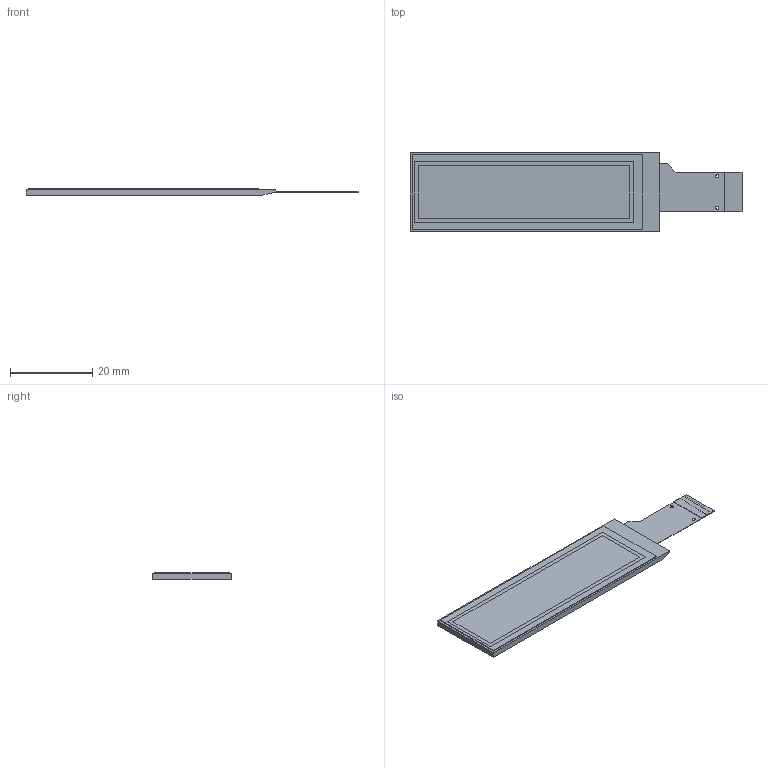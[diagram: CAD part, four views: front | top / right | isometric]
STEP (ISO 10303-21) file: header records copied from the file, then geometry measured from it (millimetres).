
FILE_DESCRIPTION (( 'STEP AP214' ), '1' );
FILE_NAME ('CFAL25664C0-021M-W.STEP', '2020-03-11T22:24:35', ( '' ), ( '' ), 'SwSTEP 2.0', 'SolidWorks 2015', '' );
FILE_SCHEMA (( 'AUTOMOTIVE_DESIGN' ));
Length unit declared in the file: millimetre
Products named in the file (1): CFAL25664C0-021M-W
Bounding box: 80.5 x 19 x 1.61 mm (x, y, z)
Volume: 1819 mm3; surface area: 3050.3 mm2
Topology: 33 solids, 33 shells, 430 faces, 1092 edges, 734 vertices
Faces by surface type: plane 426, cylinder 4
Entity records: 17570 total; most frequent: CARTESIAN_POINT 2257, ORIENTED_EDGE 2184, DIRECTION 1962, EDGE_CURVE 1092, LINE 1084, VECTOR 1084, VERTEX_POINT 734, UNCERTAINTY_MEASURE_WITH_UNIT 447
